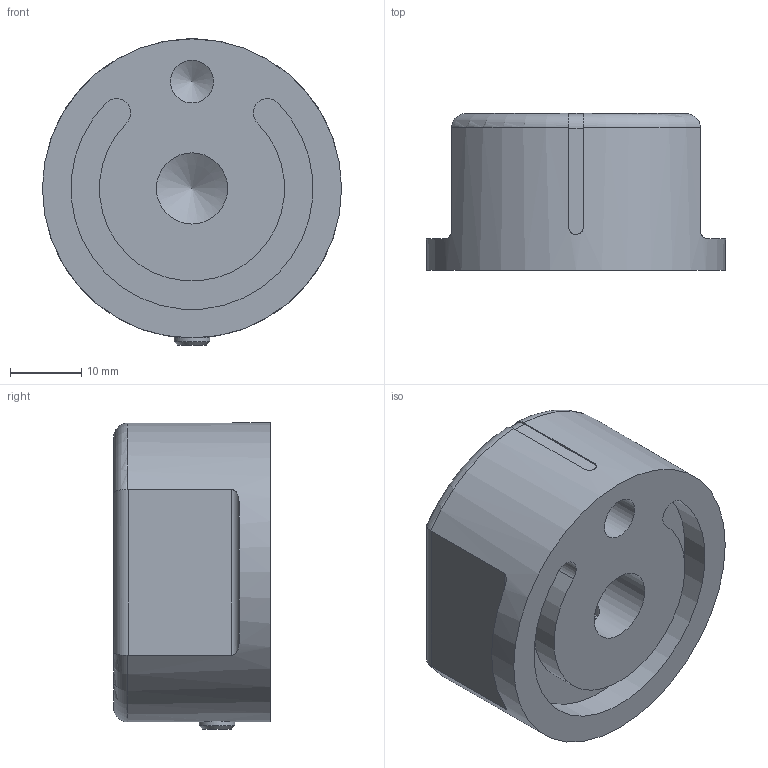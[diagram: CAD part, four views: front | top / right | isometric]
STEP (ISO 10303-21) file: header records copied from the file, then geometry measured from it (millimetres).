
FILE_DESCRIPTION( ( 'STEP AP203' ), '1' );
FILE_NAME( 'C:/Temp/Ganter_Step_05_03_2020/data/1_4/gn_729/Control knob GN 729-42-B10.stp', '2020-03-05T10:51:02', ( 'License CC BY-ND 4.0' ), ( 'CADENAS' ), ' ', 'PARTsolutions', ' ' );
FILE_SCHEMA( ( 'CONFIG_CONTROL_DESIGN' ) );
Length unit declared in the file: millimetre
Products named in the file (1): _Control knob GN 729-42-B10
Bounding box: 42 x 22 x 43 mm (x, y, z)
Volume: 25529.6 mm3; surface area: 6895 mm2
Topology: 1 solids, 1 shells, 43 faces, 108 edges, 71 vertices
Faces by surface type: plane 20, cylinder 16, cone 4, torus 3
Full cylindrical faces by diameter (mm): 5 x2, 6 x1, 10 x1, 42 x1
Entity records: 1538 total; most frequent: CARTESIAN_POINT 521, DIRECTION 196, ORIENTED_EDGE 190, EDGE_CURVE 95, AXIS2_PLACEMENT_3D 74, VERTEX_POINT 69, EDGE_LOOP 56, FACE_OUTER_BOUND 48
